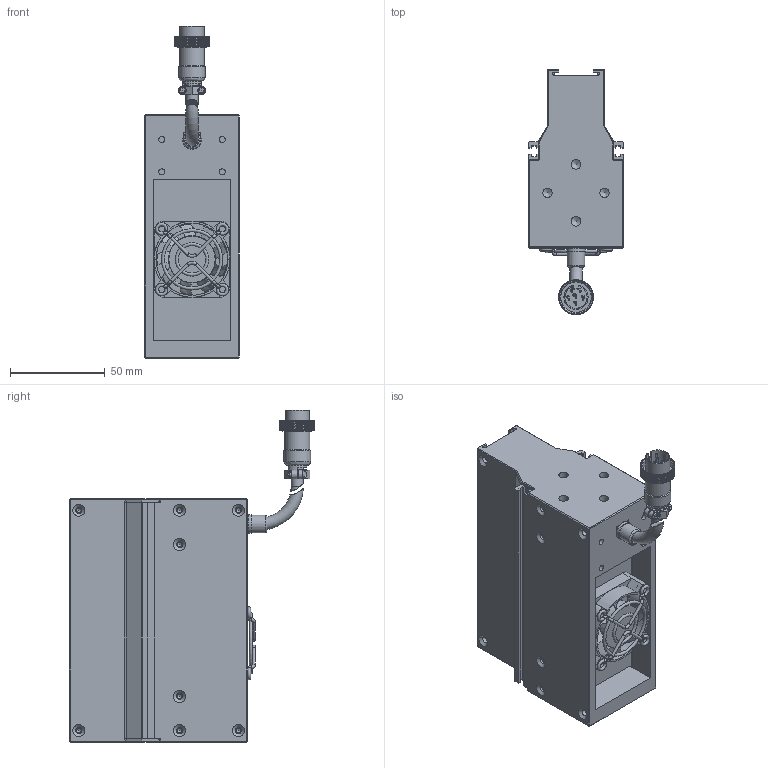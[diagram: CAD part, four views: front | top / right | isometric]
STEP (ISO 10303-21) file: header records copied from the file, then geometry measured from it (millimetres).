
FILE_DESCRIPTION (( 'STEP AP203' ), '1' );
FILE_NAME ('OPT-LSS128-R-V3.1尨砩芞.STEP', '2025-01-20T07:15:53', ( 'USER' ), ( '' ), 'SwSTEP 2.0', 'SolidWorks 2016', '' );
FILE_SCHEMA (( 'CONFIG_CONTROL_DESIGN' ));
Products named in the file (2): OPT-LSS128-R-V3.1尨砩芞
Bounding box: 50 x 129.15 x 174.83 mm (x, y, z)
Volume: 440060 mm3; surface area: 82893.4 mm2
Topology: 9 solids, 17 shells, 3468 faces, 7654 edges, 4267 vertices
Faces by surface type: bspline 2086, cylinder 682, plane 606, cone 49, torus 45
Full cylindrical faces by diameter (mm): 0.95 x6, 1.1 x2, 1.4 x2, 1.6 x4, 2 x5, 2.5 x16, 3.2 x8, 3.4 x16, 4 x4, 5 x8, 6.2 x4, 6.4 x3, 7.5 x1, 8.6 x1, 9.3 x1, 9.8 x1, 10 x1, 13.2 x1, 14 x1, 16.1 x1, 24.8 x1, 38 x1
Entity records: 117670 total; most frequent: CARTESIAN_POINT 60828, ORIENTED_EDGE 14860, EDGE_CURVE 7430, B_SPLINE_CURVE_WITH_KNOTS 5447, DIRECTION 5162, VERTEX_POINT 4210, EDGE_LOOP 3710, FACE_OUTER_BOUND 3582
